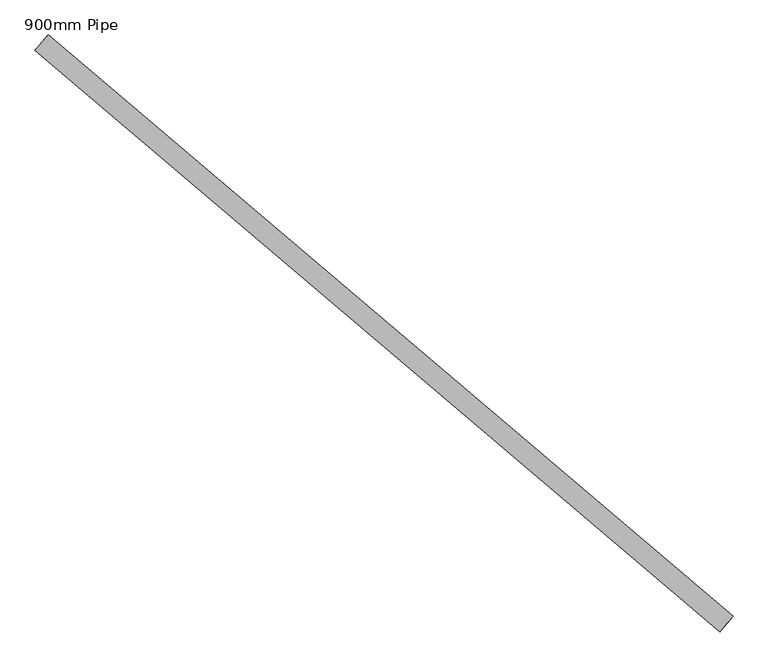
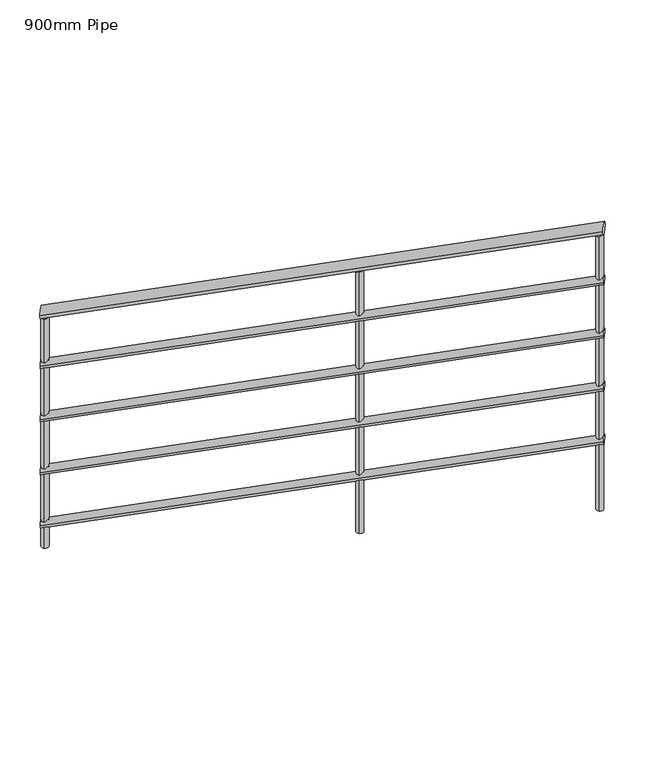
"""IFC4 building model written with IfcOpenShell, lengths in millimetres: railing geometry, 900mm Pipe."""

from ifc_helpers import new_model, si_unit, frame, origin, place, context, project, spatial, circle_curve, ellipse_curve, source, transform, mapped, element, save
from ifc_brep_helpers import plane_surface, cylinder_surface, advanced_brep


def railing_900mm_pipe_45fd43e3(model_context):
    return source(origin(), model_context, "Body", "AdvancedBrep", [
        advanced_brep(
        [(820556.7708086, 58500.0589214, 2058.386247), (820582.6650498, 58530.5464316, 2058.386247), (821902.2092614, 57357.3251383, 2596.2685999), (821928.1035025, 57387.8126484, 2596.2685999)],
        [
            (0, 1, ellipse_curve(frame((820569.7179292, 58515.3026765, 2058.386247), z_axis=(-0.7621877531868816, 0.6473560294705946, 0.0), x_axis=(0.0, 0.0, -1.0)), 20.9078706, 20.0)),
            (1, 0, ellipse_curve(frame((820569.7179292, 58515.3026765, 2058.386247), z_axis=(-0.7621877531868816, 0.6473560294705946, 0.0), x_axis=(0.0, 0.0, -1.0)), 20.9078706, 20.0)),
            (2, 3, ellipse_curve(frame((821915.1563819, 57372.5688933, 2596.2685999), z_axis=(0.7621877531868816, -0.6473560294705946, 0.0), x_axis=(0.0, 0.0, -1.0)), 20.9078706, 20.0)),
            (3, 2, ellipse_curve(frame((821915.1563819, 57372.5688933, 2596.2685999), z_axis=(0.7621877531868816, -0.6473560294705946, 0.0), x_axis=(0.0, 0.0, -1.0)), 20.9078706, 20.0)),
            (1, 3),
            (2, 0),
        ],
        [
            plane_surface(frame((820569.7179292, 58515.3026765, 2079.2941176), z_axis=(-0.7621877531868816, 0.6473560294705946, 0.0), x_axis=(0.6473560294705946, 0.7621877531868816, 0.0))),
            plane_surface(frame((821915.1563819, 57372.5688933, 2617.1764706), z_axis=(0.7621877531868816, -0.6473560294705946, 0.0), x_axis=(0.6473560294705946, 0.7621877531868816, 0.0))),
            cylinder_surface(frame((820574.1611468, 58511.5288771, 2060.1625663), z_axis=(-0.7290917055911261, 0.619246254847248, -0.2914778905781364), x_axis=(0.6473560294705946, 0.7621877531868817, 0.0)), 20.0),
        ],
        [
            (0, [[1, 2]]),
            (1, [[3, 4]]),
            (2, [[-2, 5, -3, 6]]),
            (2, [[-1, -6, -4, -5]]),
        ],
    ),
        advanced_brep(
        [(820560.0075887, 58503.8698602, 1863.6132147), (820579.4282696, 58526.7354928, 1863.6132147), (821905.4460415, 57361.136077, 2401.4955676), (821924.8667224, 57384.0017096, 2401.4955676)],
        [
            (0, 1, ellipse_curve(frame((820569.7179292, 58515.3026765, 1863.6132147), z_axis=(-0.7621877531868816, 0.6473560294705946, 0.0), x_axis=(0.0, 0.0, -1.0)), 15.680903, 15.0)),
            (1, 0, ellipse_curve(frame((820569.7179292, 58515.3026765, 1863.6132147), z_axis=(-0.7621877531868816, 0.6473560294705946, 0.0), x_axis=(0.0, 0.0, -1.0)), 15.680903, 15.0)),
            (2, 3, ellipse_curve(frame((821915.1563819, 57372.5688933, 2401.4955676), z_axis=(0.7621877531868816, -0.6473560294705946, 0.0), x_axis=(0.0, 0.0, -1.0)), 15.680903, 15.0)),
            (3, 2, ellipse_curve(frame((821915.1563819, 57372.5688933, 2401.4955676), z_axis=(0.7621877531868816, -0.6473560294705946, 0.0), x_axis=(0.0, 0.0, -1.0)), 15.680903, 15.0)),
            (0, 2),
            (3, 1),
        ],
        [
            plane_surface(frame((820569.7179292, 58515.3026765, 1879.2941176), z_axis=(-0.7621877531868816, 0.6473560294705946, 0.0), x_axis=(0.6473560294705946, 0.7621877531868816, 0.0))),
            plane_surface(frame((821915.1563819, 57372.5688933, 2417.1764706), z_axis=(0.7621877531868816, -0.6473560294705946, 0.0), x_axis=(0.6473560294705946, 0.7621877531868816, 0.0))),
            cylinder_surface(frame((820573.0503424, 58512.4723269, 1864.9454542), z_axis=(-0.7290917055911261, 0.619246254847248, -0.2914778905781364), x_axis=(0.6473560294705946, 0.7621877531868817, 0.0)), 15.0),
        ],
        [
            (0, [[1, 2]]),
            (1, [[3, 4]]),
            (2, [[-1, 5, -4, 6]]),
            (2, [[-2, -6, -3, -5]]),
        ],
    ),
        advanced_brep(
        [(820560.0075887, 58503.8698602, 1663.6132147), (820579.4282696, 58526.7354928, 1663.6132147), (821905.4460415, 57361.136077, 2201.4955676), (821924.8667224, 57384.0017096, 2201.4955676)],
        [
            (0, 1, ellipse_curve(frame((820569.7179292, 58515.3026765, 1663.6132147), z_axis=(-0.7621877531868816, 0.6473560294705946, 0.0), x_axis=(0.0, 0.0, -1.0)), 15.680903, 15.0)),
            (1, 0, ellipse_curve(frame((820569.7179292, 58515.3026765, 1663.6132147), z_axis=(-0.7621877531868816, 0.6473560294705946, 0.0), x_axis=(0.0, 0.0, -1.0)), 15.680903, 15.0)),
            (2, 3, ellipse_curve(frame((821915.1563819, 57372.5688933, 2201.4955676), z_axis=(0.7621877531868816, -0.6473560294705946, 0.0), x_axis=(0.0, 0.0, -1.0)), 15.680903, 15.0)),
            (3, 2, ellipse_curve(frame((821915.1563819, 57372.5688933, 2201.4955676), z_axis=(0.7621877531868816, -0.6473560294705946, 0.0), x_axis=(0.0, 0.0, -1.0)), 15.680903, 15.0)),
            (0, 2),
            (3, 1),
        ],
        [
            plane_surface(frame((820569.7179292, 58515.3026765, 1679.2941176), z_axis=(-0.7621877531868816, 0.6473560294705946, 0.0), x_axis=(0.6473560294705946, 0.7621877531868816, 0.0))),
            plane_surface(frame((821915.1563819, 57372.5688933, 2217.1764706), z_axis=(0.7621877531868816, -0.6473560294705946, 0.0), x_axis=(0.6473560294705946, 0.7621877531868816, 0.0))),
            cylinder_surface(frame((820573.0503424, 58512.4723269, 1664.9454542), z_axis=(-0.7290917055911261, 0.619246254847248, -0.2914778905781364), x_axis=(0.6473560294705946, 0.7621877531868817, 0.0)), 15.0),
        ],
        [
            (0, [[1, 2]]),
            (1, [[3, 4]]),
            (2, [[-1, 5, -4, 6]]),
            (2, [[-2, -6, -3, -5]]),
        ],
    ),
        advanced_brep(
        [(820560.0075887, 58503.8698602, 1463.6132147), (820579.4282696, 58526.7354928, 1463.6132147), (821905.4460415, 57361.136077, 2001.4955676), (821924.8667224, 57384.0017096, 2001.4955676)],
        [
            (0, 1, ellipse_curve(frame((820569.7179292, 58515.3026765, 1463.6132147), z_axis=(-0.7621877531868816, 0.6473560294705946, 0.0), x_axis=(0.0, 0.0, -1.0)), 15.680903, 15.0)),
            (1, 0, ellipse_curve(frame((820569.7179292, 58515.3026765, 1463.6132147), z_axis=(-0.7621877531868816, 0.6473560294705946, 0.0), x_axis=(0.0, 0.0, -1.0)), 15.680903, 15.0)),
            (2, 3, ellipse_curve(frame((821915.1563819, 57372.5688933, 2001.4955676), z_axis=(0.7621877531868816, -0.6473560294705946, 0.0), x_axis=(0.0, 0.0, -1.0)), 15.680903, 15.0)),
            (3, 2, ellipse_curve(frame((821915.1563819, 57372.5688933, 2001.4955676), z_axis=(0.7621877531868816, -0.6473560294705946, 0.0), x_axis=(0.0, 0.0, -1.0)), 15.680903, 15.0)),
            (0, 2),
            (3, 1),
        ],
        [
            plane_surface(frame((820569.7179292, 58515.3026765, 1479.2941176), z_axis=(-0.7621877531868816, 0.6473560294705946, 0.0), x_axis=(0.6473560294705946, 0.7621877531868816, 0.0))),
            plane_surface(frame((821915.1563819, 57372.5688933, 2017.1764706), z_axis=(0.7621877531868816, -0.6473560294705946, 0.0), x_axis=(0.6473560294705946, 0.7621877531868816, 0.0))),
            cylinder_surface(frame((820573.0503424, 58512.4723269, 1464.9454542), z_axis=(-0.7290917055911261, 0.619246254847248, -0.2914778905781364), x_axis=(0.6473560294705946, 0.7621877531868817, 0.0)), 15.0),
        ],
        [
            (0, [[1, 2]]),
            (1, [[3, 4]]),
            (2, [[-1, 5, -4, 6]]),
            (2, [[-2, -6, -3, -5]]),
        ],
    ),
        advanced_brep(
        [(820560.0075887, 58503.8698602, 1263.6132147), (820579.4282696, 58526.7354928, 1263.6132147), (821905.4460415, 57361.136077, 1801.4955676), (821924.8667224, 57384.0017096, 1801.4955676)],
        [
            (0, 1, ellipse_curve(frame((820569.7179292, 58515.3026765, 1263.6132147), z_axis=(-0.7621877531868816, 0.6473560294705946, 0.0), x_axis=(0.0, 0.0, -1.0)), 15.680903, 15.0)),
            (1, 0, ellipse_curve(frame((820569.7179292, 58515.3026765, 1263.6132147), z_axis=(-0.7621877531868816, 0.6473560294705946, 0.0), x_axis=(0.0, 0.0, -1.0)), 15.680903, 15.0)),
            (2, 3, ellipse_curve(frame((821915.1563819, 57372.5688933, 1801.4955676), z_axis=(0.7621877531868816, -0.6473560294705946, 0.0), x_axis=(0.0, 0.0, -1.0)), 15.680903, 15.0)),
            (3, 2, ellipse_curve(frame((821915.1563819, 57372.5688933, 1801.4955676), z_axis=(0.7621877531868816, -0.6473560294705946, 0.0), x_axis=(0.0, 0.0, -1.0)), 15.680903, 15.0)),
            (0, 2),
            (3, 1),
        ],
        [
            plane_surface(frame((820569.7179292, 58515.3026765, 1279.2941176), z_axis=(-0.7621877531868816, 0.6473560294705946, 0.0), x_axis=(0.6473560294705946, 0.7621877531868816, 0.0))),
            plane_surface(frame((821915.1563819, 57372.5688933, 1817.1764706), z_axis=(0.7621877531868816, -0.6473560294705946, 0.0), x_axis=(0.6473560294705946, 0.7621877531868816, 0.0))),
            cylinder_surface(frame((820573.0503424, 58512.4723269, 1264.9454542), z_axis=(-0.7290917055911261, 0.619246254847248, -0.2914778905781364), x_axis=(0.6473560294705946, 0.7621877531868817, 0.0)), 15.0),
        ],
        [
            (0, [[1, 2]]),
            (1, [[3, 4]]),
            (2, [[-1, 5, -4, 6]]),
            (2, [[-2, -6, -3, -5]]),
        ],
    ),
        advanced_brep(
        [(821339.9976327, 57877.4739939, 2342.1874779), (821323.813732, 57858.4193001, 2342.1874779), (821323.813732, 57858.4193001, 1358.5882353), (821339.9976327, 57877.4739939, 1358.5882353)],
        [
            (0, 1, ellipse_curve(frame((821331.9056824, 57867.946647, 2342.1874779), z_axis=(0.22216087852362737, -0.18868996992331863, -0.9565775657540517), x_axis=(0.7290917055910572, -0.6192462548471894, 0.29147789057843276)), 13.0674191, 12.5)),
            (1, 2),
            (2, 3, circle_curve(frame((821331.9056824, 57867.946647, 1358.5882353), z_axis=(0.0, 0.0, 1.0), x_axis=(-0.6473560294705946, -0.7621877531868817, 0.0)), 12.5)),
            (3, 0),
            (3, 2, circle_curve(frame((821331.9056824, 57867.946647, 1358.5882353), z_axis=(0.0, 0.0, 1.0), x_axis=(-0.6473560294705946, -0.7621877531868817, 0.0)), 12.5)),
            (1, 0, ellipse_curve(frame((821331.9056824, 57867.946647, 2342.1874779), z_axis=(0.22216087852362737, -0.18868996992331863, -0.9565775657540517), x_axis=(0.7290917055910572, -0.6192462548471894, 0.29147789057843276)), 13.0674191, 12.5)),
        ],
        [
            cylinder_surface(frame((821331.9056824, 57867.946647, 1258.5882353), z_axis=(0.0, 0.0, 1.0), x_axis=(-0.6473560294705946, -0.7621877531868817, 0.0)), 12.5),
            plane_surface(frame((821334.7764755, 57832.7080525, 2349.8052054), z_axis=(-0.22216087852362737, 0.18868996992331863, 0.9565775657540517), x_axis=(0.6473560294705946, 0.7621877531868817, 0.0))),
            plane_surface(frame((821296.6670878, 57865.0758539, 1358.5882353), z_axis=(0.0, 0.0, -1.0), x_axis=(0.6473560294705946, 0.7621877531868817, 0.0))),
        ],
        [
            (0, [[1, 2, 3, 4]]),
            (0, [[5, -2, 6, -4]]),
            (1, [[-6, -1]]),
            (2, [[-5, -3]]),
        ],
    ),
        advanced_brep(
        [(821913.7209854, 57390.1881906, 2571.5518655), (821897.5370847, 57371.1334968, 2571.5518655), (821897.5370847, 57371.1334968, 1537.8823529), (821913.7209854, 57390.1881906, 1537.8823529)],
        [
            (0, 1, ellipse_curve(frame((821905.629035, 57380.6608437, 2571.5518655), z_axis=(0.22216087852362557, -0.18868996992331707, -0.9565775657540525), x_axis=(0.7290917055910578, -0.61924625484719, 0.2914778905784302)), 13.0674191, 12.5)),
            (1, 2),
            (2, 3, circle_curve(frame((821905.629035, 57380.6608437, 1537.8823529), z_axis=(0.0, 0.0, 1.0), x_axis=(-0.6473560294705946, -0.7621877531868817, 0.0)), 12.5)),
            (3, 0),
            (3, 2, circle_curve(frame((821905.629035, 57380.6608437, 1537.8823529), z_axis=(0.0, 0.0, 1.0), x_axis=(-0.6473560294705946, -0.7621877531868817, 0.0)), 12.5)),
            (1, 0, ellipse_curve(frame((821905.629035, 57380.6608437, 2571.5518655), z_axis=(0.22216087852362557, -0.18868996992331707, -0.9565775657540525), x_axis=(0.7290917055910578, -0.61924625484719, 0.2914778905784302)), 13.0674191, 12.5)),
        ],
        [
            cylinder_surface(frame((821905.629035, 57380.6608437, 1437.8823529), z_axis=(0.0, 0.0, 1.0), x_axis=(-0.6473560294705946, -0.7621877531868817, 0.0)), 12.5),
            plane_surface(frame((821908.4998281, 57345.4222491, 2579.1695931), z_axis=(-0.22216087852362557, 0.18868996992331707, 0.9565775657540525), x_axis=(0.6473560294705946, 0.7621877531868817, 0.0))),
            plane_surface(frame((821870.3904405, 57377.7900506, 1537.8823529), z_axis=(0.0, 0.0, -1.0), x_axis=(0.6473560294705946, 0.7621877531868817, 0.0))),
        ],
        [
            (0, [[1, 2, 3, 4]]),
            (0, [[5, -2, 6, -4]]),
            (1, [[-6, -1]]),
            (2, [[-5, -3]]),
        ],
    ),
        advanced_brep(
        [(820587.3372265, 58516.738073, 2041.2872401), (820571.1533257, 58497.6833792, 2041.2872401), (820571.1533257, 58497.6833792, 1179.2941176), (820587.3372265, 58516.738073, 1179.2941176)],
        [
            (0, 1, ellipse_curve(frame((820579.2452761, 58507.2107261, 2041.2872401), z_axis=(0.22216087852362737, -0.18868996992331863, -0.9565775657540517), x_axis=(0.7290917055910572, -0.6192462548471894, 0.29147789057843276)), 13.0674191, 12.5)),
            (1, 2),
            (2, 3, circle_curve(frame((820579.2452761, 58507.2107261, 1179.2941176), z_axis=(0.0, 0.0, 1.0), x_axis=(-0.6473560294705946, -0.7621877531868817, 0.0)), 12.5)),
            (3, 0),
            (3, 2, circle_curve(frame((820579.2452761, 58507.2107261, 1179.2941176), z_axis=(0.0, 0.0, 1.0), x_axis=(-0.6473560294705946, -0.7621877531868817, 0.0)), 12.5)),
            (1, 0, ellipse_curve(frame((820579.2452761, 58507.2107261, 2041.2872401), z_axis=(0.22216087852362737, -0.18868996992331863, -0.9565775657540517), x_axis=(0.7290917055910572, -0.6192462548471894, 0.29147789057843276)), 13.0674191, 12.5)),
        ],
        [
            cylinder_surface(frame((820579.2452761, 58507.2107261, 1079.2941176), z_axis=(0.0, 0.0, 1.0), x_axis=(-0.6473560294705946, -0.7621877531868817, 0.0)), 12.5),
            plane_surface(frame((820582.1160692, 58471.9721316, 2048.9049677), z_axis=(-0.22216087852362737, 0.18868996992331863, 0.9565775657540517), x_axis=(0.6473560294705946, 0.7621877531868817, 0.0))),
            plane_surface(frame((820544.0066815, 58504.339933, 1179.2941176), z_axis=(0.0, 0.0, -1.0), x_axis=(0.6473560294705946, 0.7621877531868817, 0.0))),
        ],
        [
            (0, [[1, 2, 3, 4]]),
            (0, [[5, -2, 6, -4]]),
            (1, [[-6, -1]]),
            (2, [[-5, -3]]),
        ],
    ),
    ])


if __name__ == "__main__":
    model = new_model("IFC4")
    model_context = context("Model", 3, world=origin())
    ifc_project = project(units=[si_unit("LENGTHUNIT", "METRE", prefix="MILLI")], contexts=[model_context])
    site = spatial("IfcSite", under=ifc_project)
    building = spatial("IfcBuilding", under=site)
    placement = place(None, origin())
    railing_900mm_pipe_shape = railing_900mm_pipe_45fd43e3(model_context)
    element("IfcRailing", 1, ObjectType="900mm Pipe", at=placement, inside=building, context=model_context, shape_type="MappedRepresentation", body=[
        mapped(railing_900mm_pipe_shape, transform((0.0, 0.0, 0.0), x_axis=(1.0, 0.0, 0.0), y_axis=(0.0, 1.0, 0.0), z_axis=(0.0, 0.0, 1.0))),
    ])
    save(model, "model.ifc")
